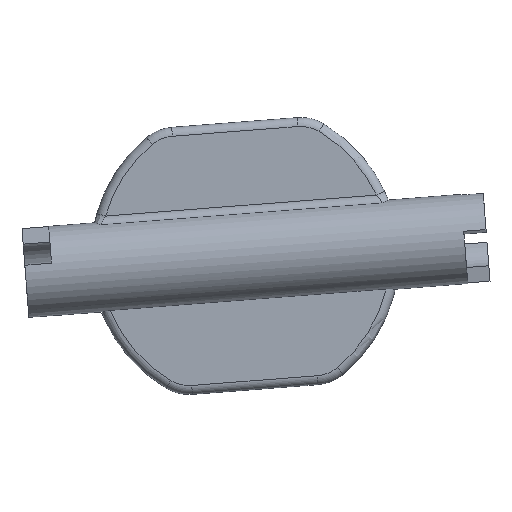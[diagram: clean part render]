
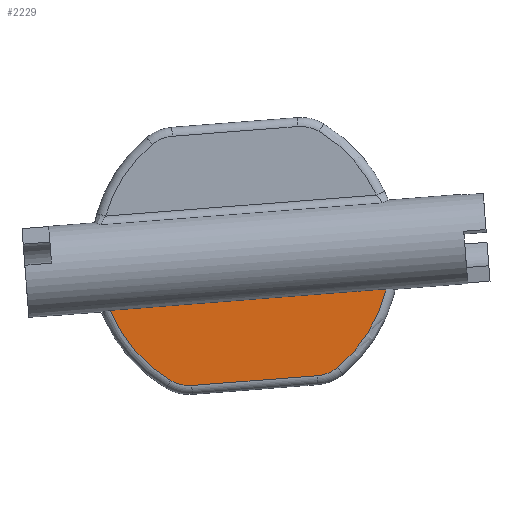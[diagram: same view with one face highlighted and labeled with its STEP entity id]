
A CAD part, front view. The second image highlights one B-rep face of the part: STEP entity #2229.
In plain terms, the highlighted planar face has unit normal (0, -1, 0).
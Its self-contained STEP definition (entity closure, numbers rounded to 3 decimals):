
#577=CARTESIAN_POINT('',(1105.2,-1.,-102.061));
#578=DIRECTION('',(0.,1.,0.));
#579=DIRECTION('',(-0.512,0.,-0.859));
#580=AXIS2_PLACEMENT_3D('',#577,#578,#579);
#582=DIRECTION('',(-0.997,0.,-0.077));
#583=VECTOR('',#582,30.925);
#584=CARTESIAN_POINT('',(1120.995,-1.,-105.751));
#585=LINE('',#584,#583);
#586=CARTESIAN_POINT('',(1105.2,-1.,-102.061));
#587=DIRECTION('',(0.,1.,0.));
#588=DIRECTION('',(0.974,0.,-0.227));
#589=AXIS2_PLACEMENT_3D('',#586,#587,#588);
#591=CARTESIAN_POINT('',(1113.,-1.,-111.468));
#592=DIRECTION('',(0.,1.,0.));
#593=DIRECTION('',(0.638,0.,-0.77));
#594=AXIS2_PLACEMENT_3D('',#591,#592,#593);
#596=DIRECTION('',(-0.997,0.,-0.077));
#597=VECTOR('',#596,14.1);
#598=CARTESIAN_POINT('',(1113.309,-1.,-115.456));
#599=LINE('',#598,#597);
#600=CARTESIAN_POINT('',(1098.942,-1.,-112.557));
#601=DIRECTION('',(0.,1.,0.));
#602=DIRECTION('',(0.077,0.,-0.997));
#603=AXIS2_PLACEMENT_3D('',#600,#601,#602);
#1194=CARTESIAN_POINT('',(1096.894,-1.,-115.993));
#1195=CARTESIAN_POINT('',(1090.162,-1.,-108.14));
#1196=VERTEX_POINT('',#1194);
#1197=VERTEX_POINT('',#1195);
#1202=CARTESIAN_POINT('',(1099.251,-1.,-116.545));
#1203=VERTEX_POINT('',#1202);
#1204=CARTESIAN_POINT('',(1113.309,-1.,-115.456));
#1205=VERTEX_POINT('',#1204);
#1206=CARTESIAN_POINT('',(1115.553,-1.,-114.547));
#1207=VERTEX_POINT('',#1206);
#1212=CARTESIAN_POINT('',(1120.995,-1.,-105.751));
#1213=VERTEX_POINT('',#1212);
#2210=CARTESIAN_POINT('',(0.,-1.,0.));
#2211=DIRECTION('',(0.,-1.,0.));
#2212=DIRECTION('',(1.,0.,0.));
#2213=AXIS2_PLACEMENT_3D('',#2210,#2211,#2212);
#2214=PLANE('',#2213);
#2216=ORIENTED_EDGE('',*,*,#2215,.T.);
#2218=ORIENTED_EDGE('',*,*,#2217,.F.);
#2220=ORIENTED_EDGE('',*,*,#2219,.T.);
#2222=ORIENTED_EDGE('',*,*,#2221,.T.);
#2224=ORIENTED_EDGE('',*,*,#2223,.T.);
#2226=ORIENTED_EDGE('',*,*,#2225,.T.);
#2227=EDGE_LOOP('',(#2216,#2218,#2220,#2222,#2224,#2226));
#2228=FACE_OUTER_BOUND('',#2227,.F.);
#2229=ADVANCED_FACE('',(#2228),#2214,.T.);
#581=CIRCLE('',#580,16.22);
#590=CIRCLE('',#589,16.22);
#595=CIRCLE('',#594,4.);
#604=CIRCLE('',#603,4.);
#2215=EDGE_CURVE('',#1196,#1197,#581,.T.);
#2217=EDGE_CURVE('',#1213,#1197,#585,.T.);
#2219=EDGE_CURVE('',#1213,#1207,#590,.T.);
#2221=EDGE_CURVE('',#1207,#1205,#595,.T.);
#2223=EDGE_CURVE('',#1205,#1203,#599,.T.);
#2225=EDGE_CURVE('',#1203,#1196,#604,.T.);
